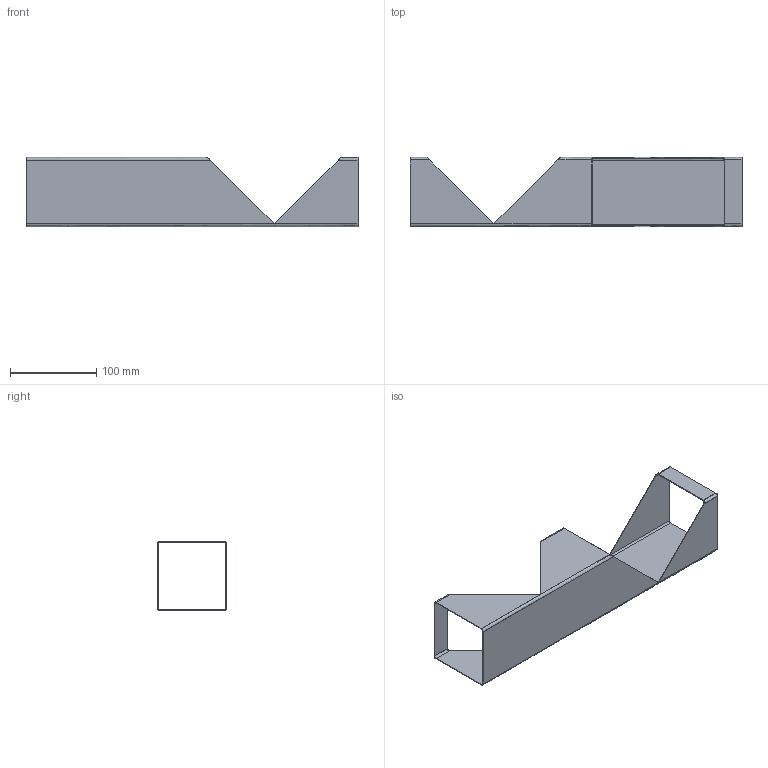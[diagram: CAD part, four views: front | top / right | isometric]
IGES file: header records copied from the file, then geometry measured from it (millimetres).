
Start section: SolidWorks IGES file using analytic representation for surfaces
Bounding box: 384 x 80 x 80 mm (x, y, z)
Surface area: 147314.2 mm2 (no closed solid volume)
Topology: 0 solids, 0 shells, 42 faces, 560 edges, 560 vertices
Faces by surface type: bspline 26, revolution 16
